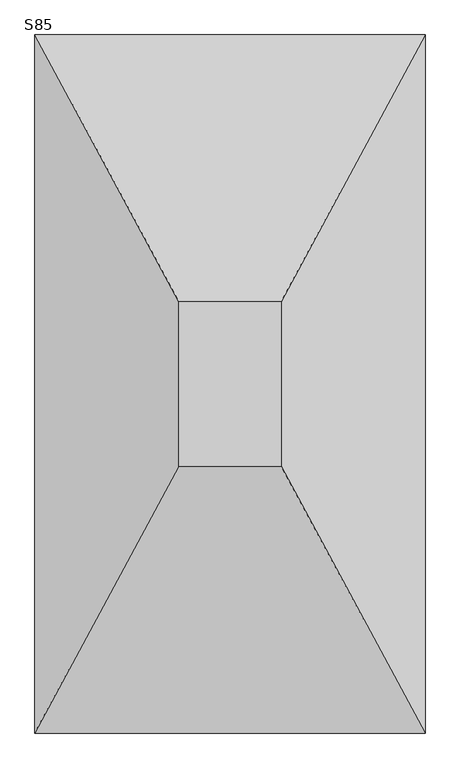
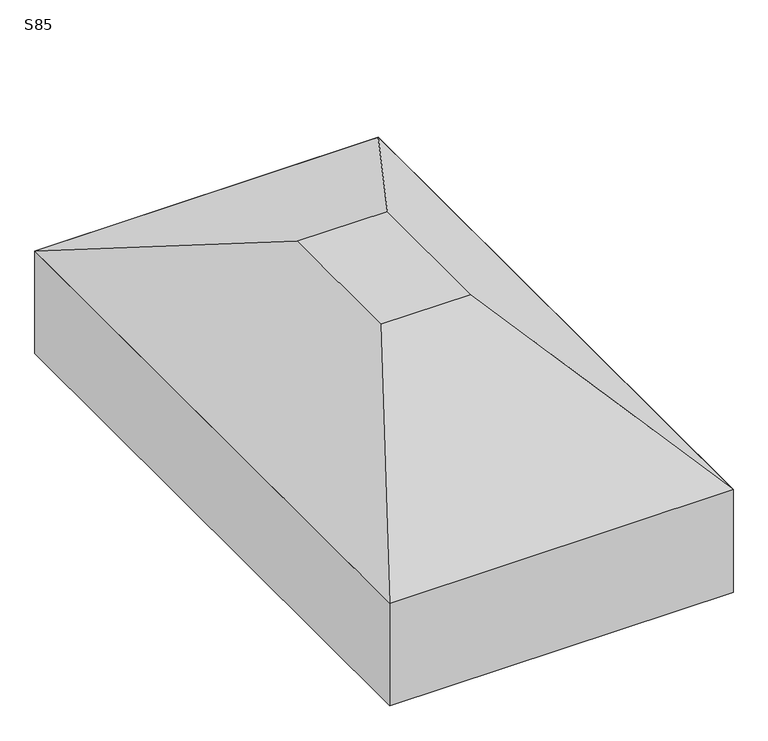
"""IFC4 building model written with IfcOpenShell, lengths in millimetres: fastener geometry, TQS - Sapata : S85."""

import ifcopenshell
import ifcopenshell.guid

model = None  # the IFC model being written
_history = None  # IfcOwnerHistory: only IFC2X3 demands one
_inside = {}  # id of a spatial element -> (the spatial element, [elements in it])
_under = {}  # id of a project, library or spatial element -> (it, [spatial elements below it])
_declared = {}  # id of a project -> (the project, [libraries it declares])
_typed = {}  # id of a type object -> (the type object, [elements of that type])
_made_of = {}  # id of a material, layer set ... -> (it, [elements and type objects made of it])


def new_model(schema):
    """Start an empty IFC model of exactly this schema.

    Asked for "IFC4X3", IfcOpenShell would pick the latest addendum, in which some entities
    have other attributes; the version numbers below select the first issue.
    IFC2X3 requires an IfcOwnerHistory on every rooted entity: one is made here for all.
    """
    global model, _history
    if schema == "IFC4X3":
        model = ifcopenshell.file(schema_version=(4, 3, 0, 0))
    else:
        model = ifcopenshell.file(schema=schema)
    _inside.clear()
    _under.clear()
    _declared.clear()
    _typed.clear()
    _made_of.clear()
    _history = None
    if model.schema == "IFC2X3":
        org = make("IfcOrganization", Name="unknown")
        user = make(
            "IfcPersonAndOrganization",
            ThePerson=make("IfcPerson", FamilyName="unknown"),
            TheOrganization=org,
        )
        app = make(
            "IfcApplication",
            ApplicationDeveloper=org,
            Version="unknown",
            ApplicationFullName="unknown",
            ApplicationIdentifier="unknown",
        )
        _history = make(
            "IfcOwnerHistory",
            OwningUser=user,
            OwningApplication=app,
            ChangeAction="ADDED",
            CreationDate=0,
        )
    return model


def make(cls, **values):
    """One entity of the class cls with the attributes given. An attribute that is None is left unset."""
    return model.create_entity(
        cls, **{name: value for name, value in values.items() if value is not None}
    )


def rooted(cls, **values):
    """An entity with a GlobalId (a new one), such as an element, a storey or a relation."""
    return make(cls, GlobalId=ifcopenshell.guid.new(), OwnerHistory=_history, **values)


def si_unit(unit_type, name, prefix=None):
    """IfcSIUnit, for example si_unit("LENGTHUNIT", "METRE", prefix="MILLI")."""
    return make("IfcSIUnit", UnitType=unit_type, Prefix=prefix, Name=name)


def assignment(units):
    """IfcUnitAssignment: the units of a project."""
    return None if units is None else make("IfcUnitAssignment", Units=units)


def point(xyz):
    """IfcCartesianPoint."""
    return None if xyz is None else make("IfcCartesianPoint", Coordinates=xyz)


def direction(xyz):
    """IfcDirection."""
    return None if xyz is None else make("IfcDirection", DirectionRatios=xyz)


def frame(location, z_axis=None, x_axis=None):
    """IfcAxis2Placement3D, a coordinate frame: its origin and axes. An axis left out is left unset."""
    return make(
        "IfcAxis2Placement3D",
        Location=point(location),
        Axis=direction(z_axis),
        RefDirection=direction(x_axis),
    )


def origin():
    """The frame at (0, 0, 0) with its axes left unset."""
    return frame((0.0, 0.0, 0.0))


def place(relative_to, where):
    """IfcLocalPlacement: puts the frame where relative to a parent placement (None: the world)."""
    return make(
        "IfcLocalPlacement", PlacementRelTo=relative_to, RelativePlacement=where
    )


def context(
    kind, dimensions, precision=None, world=None, true_north=None, identifier=None
):
    """IfcGeometricRepresentationContext, for example the 3D "Model" context."""
    return make(
        "IfcGeometricRepresentationContext",
        ContextIdentifier=identifier,
        ContextType=kind,
        CoordinateSpaceDimension=dimensions,
        Precision=precision,
        WorldCoordinateSystem=world,
        TrueNorth=true_north,
    )


def project(units=None, contexts=None):
    """IfcProject with its units and contexts."""
    return rooted(
        "IfcProject",
        Name="project",
        RepresentationContexts=contexts,
        UnitsInContext=assignment(units),
    )


def spatial(cls, under=None, at=None, **own):
    """A site, building, storey or space (cls), placed at a placement, below another one or the project."""
    s = rooted(cls, ObjectPlacement=at, **own)
    if under is not None:
        _under.setdefault(under.id(), (under, []))[1].append(s)
    return s


def polyline(points):
    """IfcPolyline through the points."""
    return make("IfcPolyline", Points=[point(p) for p in points])


def outline(outer, holes=None, kind="AREA"):
    """IfcArbitraryClosedProfileDef: a profile drawn as a closed curve; with holes, ...WithVoids."""
    if holes is None:
        return make("IfcArbitraryClosedProfileDef", ProfileType=kind, OuterCurve=outer)
    return make(
        "IfcArbitraryProfileDefWithVoids",
        ProfileType=kind,
        OuterCurve=outer,
        InnerCurves=holes,
    )


def extrude(swept, where, along, depth):
    """IfcExtrudedAreaSolid: the profile swept, set in the frame where, extruded along a direction by depth."""
    return make(
        "IfcExtrudedAreaSolid",
        SweptArea=swept,
        Position=where,
        ExtrudedDirection=direction(along),
        Depth=depth,
    )


def faces_of(points, faces, orient=None, outer=None):
    """IfcFace entities. A face is a list of loops; a loop is a list of indices into points, from 0.

    orient and outer hold one flag for each loop. By default every Orientation is true, the
    first loop of a face is its IfcFaceOuterBound and the others are IfcFaceBound.
    """
    made = []
    for i, loops in enumerate(faces):
        bounds = []
        for j, loop in enumerate(loops):
            is_outer = j == 0 if outer is None else outer[i][j]
            bounds.append(
                make(
                    "IfcFaceOuterBound" if is_outer else "IfcFaceBound",
                    Bound=make("IfcPolyLoop", Polygon=[points[k] for k in loop]),
                    Orientation=True if orient is None else orient[i][j],
                )
            )
        made.append(make("IfcFace", Bounds=bounds))
    return made


def faceted_brep(points, faces, orient=None, outer=None, voids=None):
    """IfcFacetedBrep: a solid bounded by flat faces; with voids (closed shells), ...WithVoids."""
    shared = [point(p) for p in points]
    hull = make("IfcClosedShell", CfsFaces=faces_of(shared, faces, orient, outer))
    if voids is None:
        return make("IfcFacetedBrep", Outer=hull)
    return make(
        "IfcFacetedBrepWithVoids",
        Outer=hull,
        Voids=[
            make(cls, CfsFaces=faces_of(shared, fs, o, b)) for cls, fs, o, b in voids
        ],
    )


def shape(context_of_items, identifier, shape_type, items):
    """IfcShapeRepresentation: the items that make up one representation, for example the "Body"."""
    return make(
        "IfcShapeRepresentation",
        ContextOfItems=context_of_items,
        RepresentationIdentifier=identifier,
        RepresentationType=shape_type,
        Items=items,
    )


def source(mapping_origin, context_of_items, identifier, shape_type, items):
    """IfcRepresentationMap: a shape defined once, which mapped items show again and again."""
    return make(
        "IfcRepresentationMap",
        MappingOrigin=mapping_origin,
        MappedRepresentation=shape(context_of_items, identifier, shape_type, items),
    )


def transform(
    local_origin,
    x_axis=None,
    y_axis=None,
    z_axis=None,
    scale=None,
    scale2=None,
    scale3=None,
    uniform=True,
):
    """IfcCartesianTransformationOperator3D, or its non-uniform kind. x_axis, y_axis, z_axis: its Axis1, 2, 3."""
    if uniform:
        return make(
            "IfcCartesianTransformationOperator3D",
            Axis1=direction(x_axis),
            Axis2=direction(y_axis),
            LocalOrigin=point(local_origin),
            Scale=scale,
            Axis3=direction(z_axis),
        )
    return make(
        "IfcCartesianTransformationOperator3DnonUniform",
        Axis1=direction(x_axis),
        Axis2=direction(y_axis),
        LocalOrigin=point(local_origin),
        Scale=scale,
        Axis3=direction(z_axis),
        Scale2=scale2,
        Scale3=scale3,
    )


def mapped(mapping_source, mapping_target):
    """IfcMappedItem: shows the shape of a source again, moved by a transform."""
    return make(
        "IfcMappedItem", MappingSource=mapping_source, MappingTarget=mapping_target
    )


def made_of(thing, what):
    """Note that an element or type object is made of a material, layer set ...; save() writes the relation."""
    if what is not None:
        _made_of.setdefault(what.id(), (what, []))[1].append(thing)
    return thing


def element(
    cls,
    number,
    at=None,
    inside=None,
    cuts=None,
    type_object=None,
    material=None,
    context=None,
    identifier="Body",
    shape_type=None,
    held_by="IfcProductDefinitionShape",
    body=None,
    shapes=None,
    **own,
):
    """One element of the class cls, such as IfcWall. Its Tag is "e" and its number.

    at: its placement. inside: the storey or other place that contains it. cuts: it is an
    opening in that element (IfcRelVoidsElement). A single representation is given by context,
    identifier, shape_type and body (its items); several are given by shapes. held_by: the class
    of the entity that holds the representations. save() writes the other relations.
    """
    e = rooted(cls, Tag="e%d" % number, ObjectPlacement=at, **own)
    if body is not None:
        shapes = [shape(context, identifier, shape_type, body)]
    if shapes is not None:
        e.Representation = make(held_by, Representations=shapes)
    if inside is not None:
        _inside.setdefault(inside.id(), (inside, []))[1].append(e)
    if cuts is not None:
        rooted(
            "IfcRelVoidsElement", RelatingBuildingElement=cuts, RelatedOpeningElement=e
        )
    if type_object is not None:
        _typed.setdefault(type_object.id(), (type_object, []))[1].append(e)
    return made_of(e, material)


def aggregate(whole, parts):
    """IfcRelAggregates: a whole, such as a stair, and the parts it consists of."""
    return rooted("IfcRelAggregates", RelatingObject=whole, RelatedObjects=parts)


def save(model, path):
    """Write the relations noted so far, then the file.

    IfcRelAggregates (storeys below a building ...), IfcRelContainedInSpatialStructure (elements
    in a storey), IfcRelDefinesByType, IfcRelAssociatesMaterial and IfcRelDeclares: one each for
    every whole, place, type object, material and project.
    """
    for whole, parts in _under.values():
        aggregate(whole, parts)
    for where, things in _inside.values():
        rooted(
            "IfcRelContainedInSpatialStructure",
            RelatedElements=things,
            RelatingStructure=where,
        )
    for kind, things in _typed.values():
        rooted("IfcRelDefinesByType", RelatedObjects=things, RelatingType=kind)
    for what, things in _made_of.values():
        rooted("IfcRelAssociatesMaterial", RelatedObjects=things, RelatingMaterial=what)
    for by, libraries in _declared.values():
        rooted("IfcRelDeclares", RelatingContext=by, RelatedDefinitions=libraries)
    model.write(path)


def s85_b6db43a6(model_context):
    return source(origin(), model_context, "Body", "SolidModel", [
        faceted_brep([(-75.0, 0.0, 0.0), (-325.0, 0.0, 0.0), (-325.0, -400.0, 0.0), (-75.0, -400.0, 0.0), (275.0, 650.0, -300.0), (275.0, -1050.0, -300.0), (-675.0, -1050.0, -300.0), (-675.0, 650.0, -300.0)], [[[0, 1, 2, 3]], [[4, 5, 6, 7]], [[4, 7, 1, 0]], [[7, 6, 2, 1]], [[6, 5, 3, 2]], [[5, 4, 0, 3]]]),
        extrude(outline(polyline([(275.0, 650.0), (275.0, -1050.0), (-675.0, -1050.0), (-675.0, 650.0), (275.0, 650.0)])), frame((0.0, 0.0, -600.0), z_axis=(0.0, 0.0, 1.0), x_axis=(1.0, 0.0, 0.0)), (0.0, 0.0, 1.0), 300.0),
    ])


if __name__ == "__main__":
    model = new_model("IFC4")
    model_context = context("Model", 3, world=origin())
    ifc_project = project(units=[si_unit("LENGTHUNIT", "METRE", prefix="MILLI")], contexts=[model_context])
    site = spatial("IfcSite", under=ifc_project)
    building = spatial("IfcBuilding", under=site)
    placement = place(None, origin())
    s85_shape = s85_b6db43a6(model_context)
    element("IfcFastener", 1, ObjectType="TQS - Sapata : S85", at=placement, inside=building, context=model_context, shape_type="MappedRepresentation", body=[
        mapped(s85_shape, transform((0.0, 0.0, 0.0), x_axis=(1.0, 0.0, 0.0), y_axis=(0.0, 1.0, 0.0), z_axis=(0.0, 0.0, 1.0))),
    ])
    save(model, "model.ifc")
